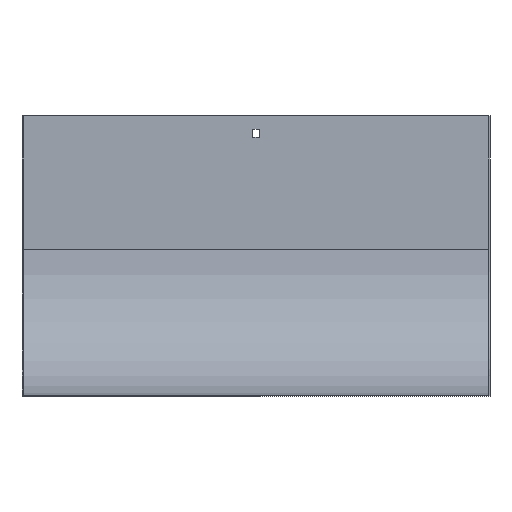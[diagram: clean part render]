
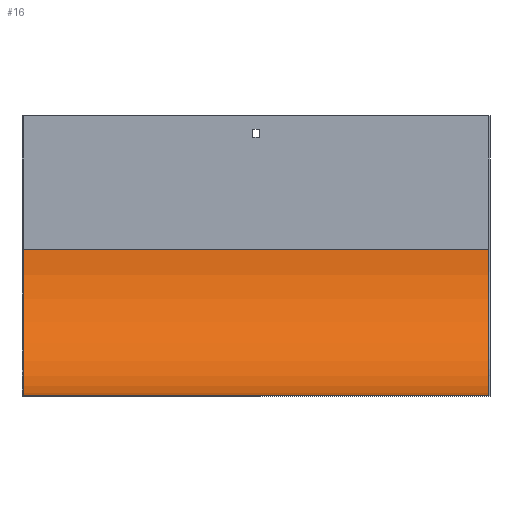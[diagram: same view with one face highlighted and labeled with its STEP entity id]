
A CAD part, front view. The second image highlights one B-rep face of the part: STEP entity #16.
In plain terms, the highlighted cylindrical face has radius 125 mm (diameter 250 mm), a partial arc.
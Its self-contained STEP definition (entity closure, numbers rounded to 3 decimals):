
#16 = ADVANCED_FACE ( 'NONE', ( #419 ), #98, .F. ) ;
#25 = DIRECTION ( 'NONE',  ( 1., 0., 0. ) ) ;
#42 = DIRECTION ( 'NONE',  ( 1., 0., 0. ) ) ;
#93 = EDGE_CURVE ( 'NONE', #680, #575, #724, .T. ) ;
#98 = CYLINDRICAL_SURFACE ( 'NONE', #805, 125. ) ;
#111 = CARTESIAN_POINT ( 'NONE',  ( -200., -126., -115. ) ) ;
#127 = VECTOR ( 'NONE', #497, 1000. ) ;
#129 = EDGE_CURVE ( 'NONE', #575, #138, #845, .T. ) ;
#138 = VERTEX_POINT ( 'NONE', #760 ) ;
#164 = DIRECTION ( 'NONE',  ( 0., 0., 1. ) ) ;
#167 = AXIS2_PLACEMENT_3D ( 'NONE', #174, #42, #164 ) ;
#174 = CARTESIAN_POINT ( 'NONE',  ( 200., -126., -115. ) ) ;
#183 = LINE ( 'NONE', #438, #421 ) ;
#185 = DIRECTION ( 'NONE',  ( 0., 0., 1. ) ) ;
#196 = VERTEX_POINT ( 'NONE', #379 ) ;
#242 = CARTESIAN_POINT ( 'NONE',  ( 201., -1., -115. ) ) ;
#272 = CARTESIAN_POINT ( 'NONE',  ( 200., -126., -240. ) ) ;
#281 = EDGE_CURVE ( 'NONE', #680, #196, #183, .T. ) ;
#282 = CARTESIAN_POINT ( 'NONE',  ( 200., -1., -115. ) ) ;
#297 = ORIENTED_EDGE ( 'NONE', *, *, #129, .T. ) ;
#312 = EDGE_LOOP ( 'NONE', ( #790, #613, #374, #297 ) ) ;
#356 = CARTESIAN_POINT ( 'NONE',  ( 201., -126., -115. ) ) ;
#374 = ORIENTED_EDGE ( 'NONE', *, *, #93, .T. ) ;
#377 = EDGE_CURVE ( 'NONE', #196, #138, #789, .T. ) ;
#379 = CARTESIAN_POINT ( 'NONE',  ( -200., -126., -240. ) ) ;
#419 = FACE_OUTER_BOUND ( 'NONE', #312, .T. ) ;
#421 = VECTOR ( 'NONE', #716, 1000. ) ;
#438 = CARTESIAN_POINT ( 'NONE',  ( 201., -126., -240. ) ) ;
#497 = DIRECTION ( 'NONE',  ( -1., 0., 0. ) ) ;
#509 = DIRECTION ( 'NONE',  ( 0., 0., 1. ) ) ;
#575 = VERTEX_POINT ( 'NONE', #282 ) ;
#613 = ORIENTED_EDGE ( 'NONE', *, *, #281, .F. ) ;
#628 = DIRECTION ( 'NONE',  ( -1., 0., 0. ) ) ;
#680 = VERTEX_POINT ( 'NONE', #272 ) ;
#698 = AXIS2_PLACEMENT_3D ( 'NONE', #111, #25, #185 ) ;
#716 = DIRECTION ( 'NONE',  ( -1., 0., 0. ) ) ;
#724 = CIRCLE ( 'NONE', #167, 125. ) ;
#760 = CARTESIAN_POINT ( 'NONE',  ( -200., -1., -115. ) ) ;
#789 = CIRCLE ( 'NONE', #698, 125. ) ;
#790 = ORIENTED_EDGE ( 'NONE', *, *, #377, .F. ) ;
#805 = AXIS2_PLACEMENT_3D ( 'NONE', #356, #628, #509 ) ;
#845 = LINE ( 'NONE', #242, #127 ) ;
